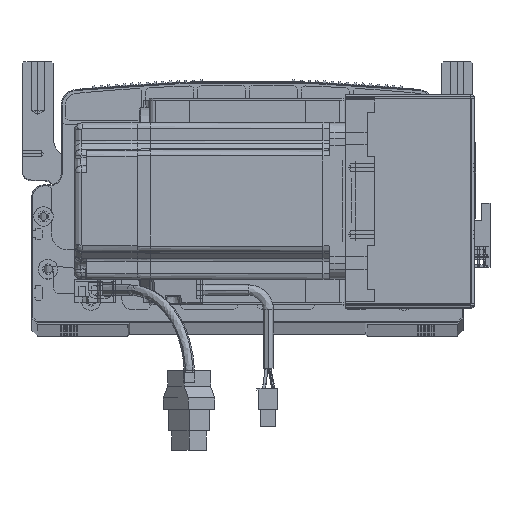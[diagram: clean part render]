
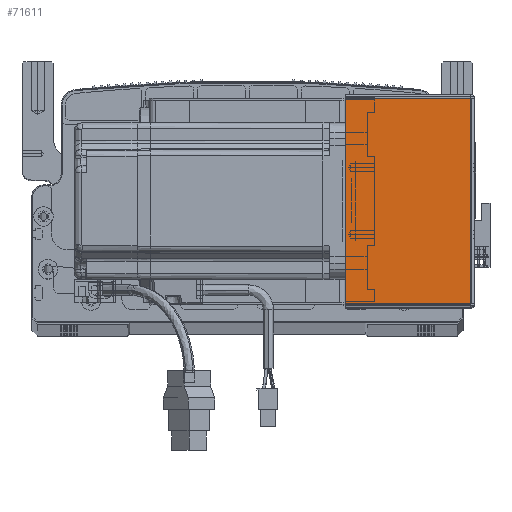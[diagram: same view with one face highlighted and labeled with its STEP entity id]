
A CAD part, top view. The second image highlights one B-rep face of the part: STEP entity #71611.
In plain terms, the highlighted planar face has unit normal (0, 0, 1) as drawn and (0, 0, -1) by its records, which use the part's own axes.
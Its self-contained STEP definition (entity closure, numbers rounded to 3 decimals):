
#244 = ORIENTED_EDGE ( 'NONE', *, *, #43753, .F. ) ;
#7858 = LINE ( 'NONE', #68930, #16559 ) ;
#11747 = DIRECTION ( 'NONE',  ( 0., -1., 0. ) ) ;
#12877 = CARTESIAN_POINT ( 'NONE',  ( 0., 0.707, -205.5 ) ) ;
#14595 = CARTESIAN_POINT ( 'NONE',  ( 0.737, 105.293, -205.5 ) ) ;
#15746 = CARTESIAN_POINT ( 'NONE',  ( 0., 105.293, -205.5 ) ) ;
#15979 = FACE_OUTER_BOUND ( 'NONE', #95237, .T. ) ;
#16559 = VECTOR ( 'NONE', #68581, 1000. ) ;
#17007 = ORIENTED_EDGE ( 'NONE', *, *, #93388, .F. ) ;
#18521 = EDGE_CURVE ( 'NONE', #25302, #53154, #7858, .T. ) ;
#19492 = CARTESIAN_POINT ( 'NONE',  ( 0., 0., -205.5 ) ) ;
#20615 = LINE ( 'NONE', #12877, #33059 ) ;
#25302 = VERTEX_POINT ( 'NONE', #101143 ) ;
#33059 = VECTOR ( 'NONE', #60568, 1000. ) ;
#41799 = EDGE_CURVE ( 'NONE', #83498, #25302, #45594, .T. ) ;
#42586 = CARTESIAN_POINT ( 'NONE',  ( 0.737, 0.707, -205.5 ) ) ;
#43319 = DIRECTION ( 'NONE',  ( 0., 0., 1. ) ) ;
#43753 = EDGE_CURVE ( 'NONE', #96817, #53154, #20615, .T. ) ;
#45594 = LINE ( 'NONE', #15746, #96111 ) ;
#46916 = AXIS2_PLACEMENT_3D ( 'NONE', #19492, #43319, #67512 ) ;
#52326 = PLANE ( 'NONE',  #46916 ) ;
#53154 = VERTEX_POINT ( 'NONE', #89085 ) ;
#57490 = VECTOR ( 'NONE', #11747, 1000. ) ;
#58117 = ORIENTED_EDGE ( 'NONE', *, *, #41799, .T. ) ;
#60568 = DIRECTION ( 'NONE',  ( 1., 0., 0. ) ) ;
#67512 = DIRECTION ( 'NONE',  ( 1., 0., 0. ) ) ;
#68581 = DIRECTION ( 'NONE',  ( 0., -1., 0. ) ) ;
#68930 = CARTESIAN_POINT ( 'NONE',  ( 64.5, 0., -205.5 ) ) ;
#71611 = ADVANCED_FACE ( 'NONE', ( #15979 ), #52326, .F. ) ;
#78911 = DIRECTION ( 'NONE',  ( 1., 0., 0. ) ) ;
#80916 = LINE ( 'NONE', #89761, #57490 ) ;
#83498 = VERTEX_POINT ( 'NONE', #14595 ) ;
#89085 = CARTESIAN_POINT ( 'NONE',  ( 64.5, 0.707, -205.5 ) ) ;
#89761 = CARTESIAN_POINT ( 'NONE',  ( 0.737, 0., -205.5 ) ) ;
#89806 = ORIENTED_EDGE ( 'NONE', *, *, #18521, .T. ) ;
#93388 = EDGE_CURVE ( 'NONE', #83498, #96817, #80916, .T. ) ;
#95237 = EDGE_LOOP ( 'NONE', ( #17007, #58117, #89806, #244 ) ) ;
#96111 = VECTOR ( 'NONE', #78911, 1000. ) ;
#96817 = VERTEX_POINT ( 'NONE', #42586 ) ;
#101143 = CARTESIAN_POINT ( 'NONE',  ( 64.5, 105.293, -205.5 ) ) ;
